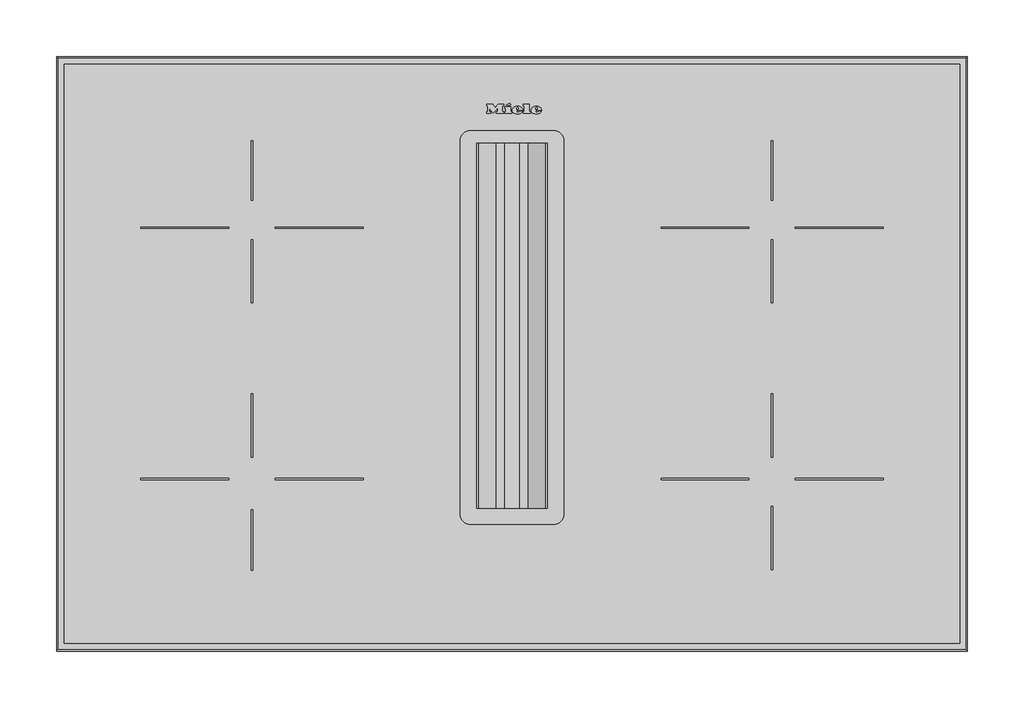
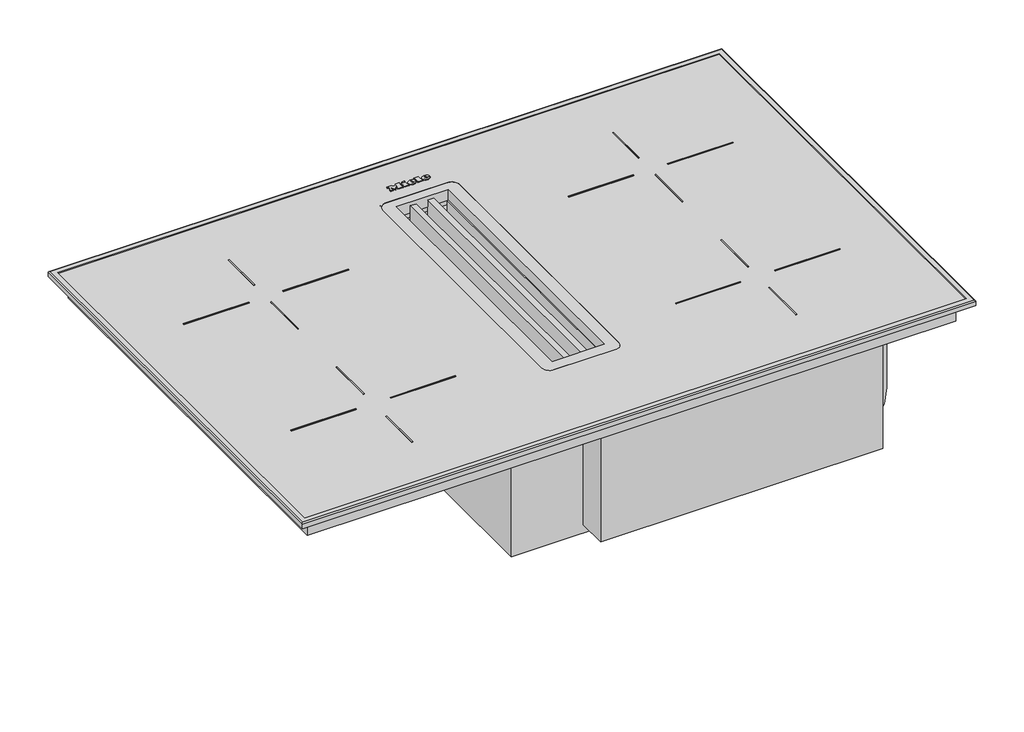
# Not in any storey: 1 proxy.
"""IFC4 building model written with IfcOpenShell, lengths in millimetres."""

from ifc_helpers import new_model, si_unit, origin, place, context, project, spatial, transform, mapped, element, save
from components import specialty_equipment_56d19404

model = new_model("IFC4")

# Units and contexts
model_context = context("Model", 3, world=origin())
ifc_project = project(units=[si_unit("LENGTHUNIT", "METRE", prefix="MILLI")], contexts=[model_context])

# Site, building
site = spatial("IfcSite", under=ifc_project)
building = spatial("IfcBuilding", under=site)

# Proxy
placement = place(None, origin())
specialty_equipment_shape = specialty_equipment_56d19404(model_context)
element("IfcBuildingElementProxy", 1, Name="12970700_NER_KMDA7272-1FR : 26727276_NER_12970700_KMDA7272-1FR", ObjectType="12970700_NER_KMDA7272-1FR : 26727276_NER_12970700_KMDA7272-1FR", at=placement, inside=building, context=model_context, shape_type="MappedRepresentation", body=[
    mapped(specialty_equipment_shape, transform((0.0, 0.0, 0.0), x_axis=(1.0, 0.0, 0.0), y_axis=(0.0, 1.0, 0.0), z_axis=(0.0, 0.0, 1.0))),
])

save(model, "model.ifc")
